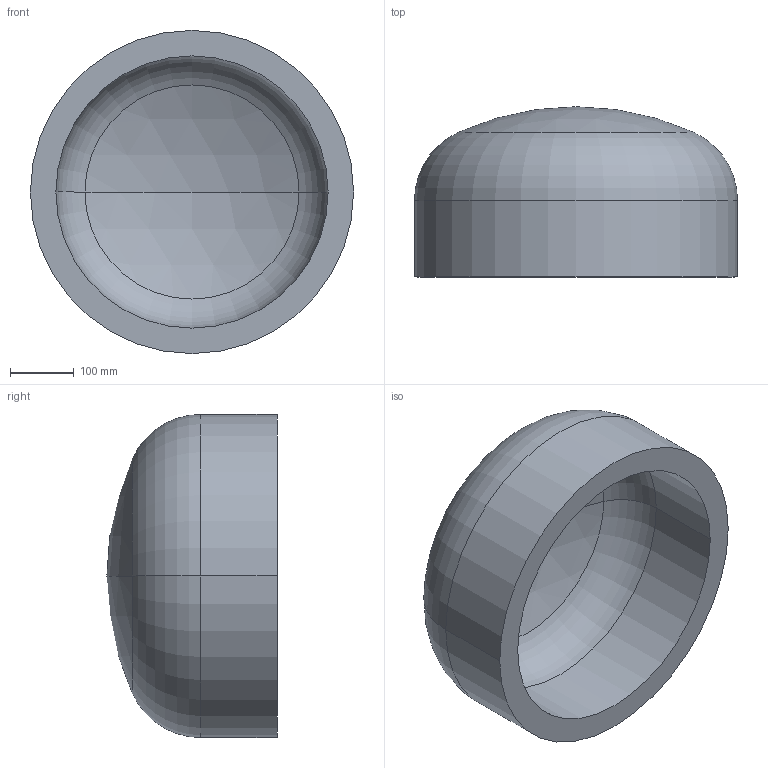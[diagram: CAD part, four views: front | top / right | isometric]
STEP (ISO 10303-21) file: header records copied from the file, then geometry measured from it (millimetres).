
FILE_DESCRIPTION (( 'STEP AP203' ), '1' );
FILE_NAME ('DIN 28013 Korbbogenform_-_Boden DIN 28013 - 508 x 120 - I - s=40.step', '2016-07-01T07:54:42', ( '' ), ( '' ), 'SwSTEP 2.0', 'SolidWorks 2013', '' );
FILE_SCHEMA (( 'CONFIG_CONTROL_DESIGN' ));
Length unit declared in the file: millimetre
Products named in the file (1): DIN 28013 Korbbogenform_-_Boden DIN 28013 - 508 x 120 - I - s=40
Bounding box: 508 x 267.52 x 508 mm (x, y, z)
Volume: 17222246.2 mm3; surface area: 923273.8 mm2
Topology: 1 solids, 1 shells, 13 faces, 24 edges, 14 vertices
Faces by surface type: torus 4, cylinder 4, sphere 4, plane 1
Entity records: 407 total; most frequent: DIRECTION 72, CARTESIAN_POINT 52, ORIENTED_EDGE 48, AXIS2_PLACEMENT_3D 34, EDGE_CURVE 24, CIRCLE 20, VERTEX_POINT 14, EDGE_LOOP 14
